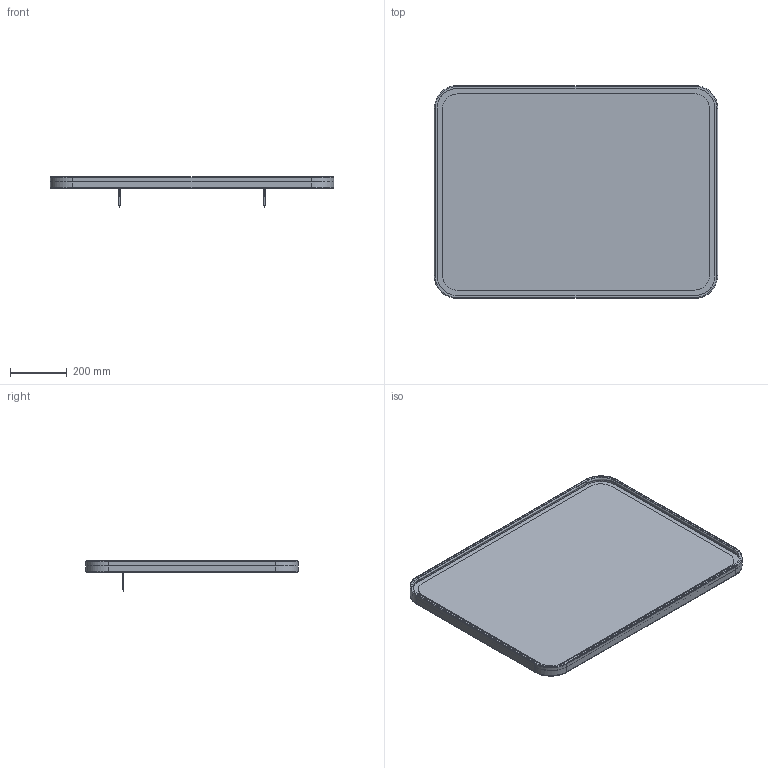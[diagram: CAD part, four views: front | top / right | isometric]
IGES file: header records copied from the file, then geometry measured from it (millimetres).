
Global section: file name: 3D Dosyası (100),; native system: Autodesk Inventor 2024; preprocessor: unknown; author: pc12; date: 20250710.082203; units: millimetre
Bounding box: 1000 x 750 x 107 mm (x, y, z)
Volume: 8388596.1 mm3; surface area: 2691600.4 mm2
Topology: 12 solids, 13 shells, 1132 faces, 2836 edges, 1688 vertices
Faces by surface type: bspline 1132
